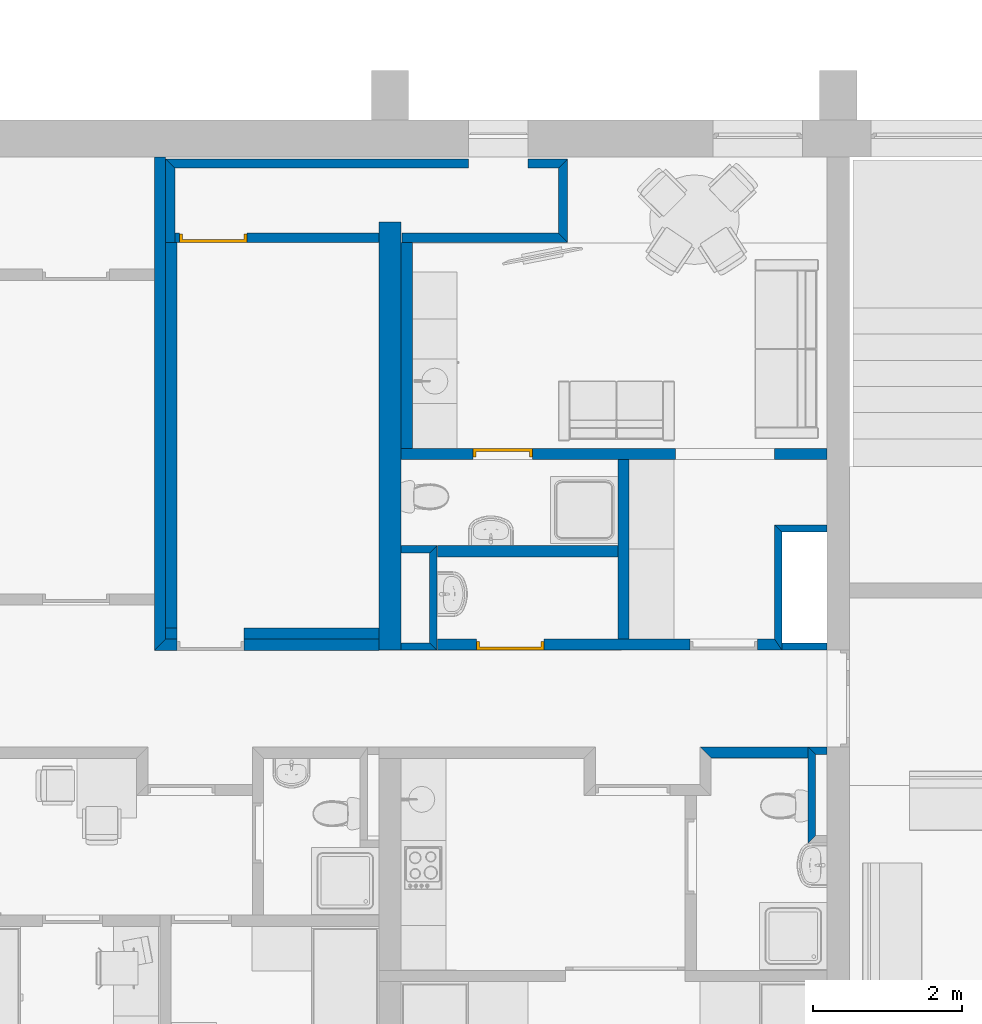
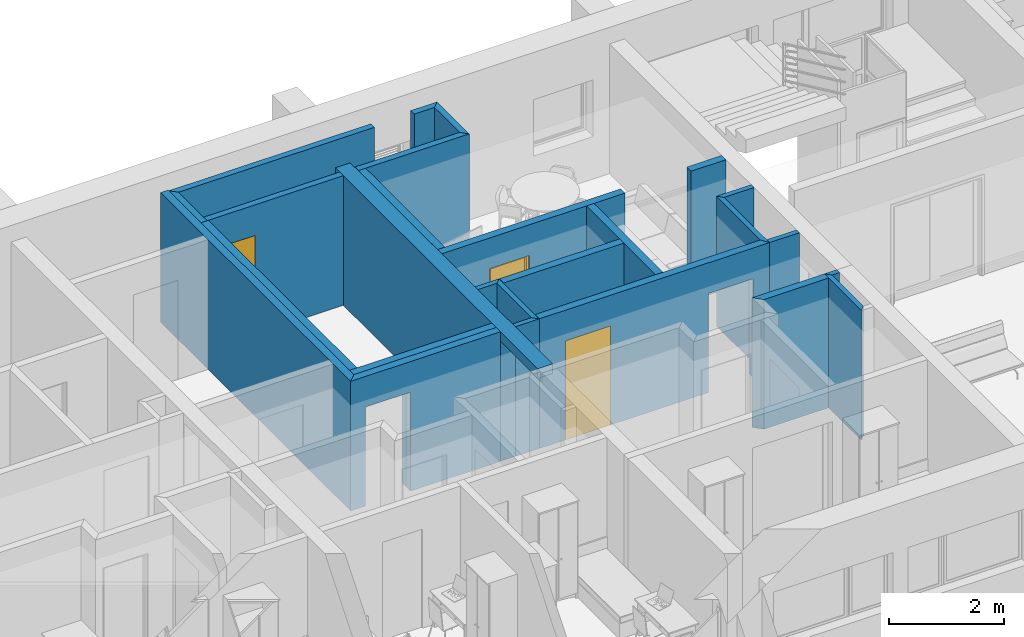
# One storey, part 12 of 172: 26 walls, 3 doors, 7 openings.
"""IFC2X3 building model written with IfcOpenShell, lengths in millimetres."""

from ifc_helpers import new_model, entity, si_unit, converted_unit, money_unit, direction, frame, origin_with_axes, place, context, subcontext, project, spatial, polyline, outline, extrude, faceted_brep, source, transform, mapped, material, material_list, layer, layer_set, layer_usage, type_object, element, fill, save


model = new_model("IFC2X3")

# Units and contexts
model_context = context("Model", 3, precision=1e-05, world=origin_with_axes(), true_north=direction((0.0, 1.0)))
body_context = subcontext(model_context, "Body", "Model", "MODEL_VIEW")
ifc_project = project(units=[si_unit("LENGTHUNIT", "METRE", prefix="MILLI"), si_unit("AREAUNIT", "SQUARE_METRE"), si_unit("VOLUMEUNIT", "CUBIC_METRE"), converted_unit("PLANEANGLEUNIT", "DEGREE", entity("IfcPlaneAngleMeasure", 0.0174532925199), si_unit("PLANEANGLEUNIT", "RADIAN"), dimensions=[0, 0, 0, 0, 0, 0, 0]), si_unit("SOLIDANGLEUNIT", "STERADIAN"), money_unit("USD"), converted_unit("TIMEUNIT", "Year", entity("IfcTimeMeasure", 31556926.0), si_unit("TIMEUNIT", "SECOND"), dimensions=[0, 0, 0, 0, 0, 0, 0]), si_unit("MASSUNIT", "GRAM"), si_unit("THERMODYNAMICTEMPERATUREUNIT", "DEGREE_CELSIUS"), si_unit("LUMINOUSINTENSITYUNIT", "LUMEN")], contexts=[model_context])

# Site, building, storey
site_placement = place(None, origin_with_axes())
site = spatial("IfcSite", under=ifc_project, at=site_placement, Name="Site", CompositionType="ELEMENT")
building_placement = place(site_placement, origin_with_axes())
building = spatial("IfcBuilding", under=site, at=building_placement, Name="Building", CompositionType="ELEMENT")
storey_placement = place(building_placement, frame((0.0, 0.0, 3200.0), z_axis=(0.0, 0.0, 1.0), x_axis=(1.0, 0.0, 0.0)))
storey = spatial("IfcBuildingStorey", under=building, at=storey_placement, Name="3KORRUS", CompositionType="ELEMENT", Elevation=3200.0)

# Wall, opening
ifc_material_1 = material(Name="UmbKipsplaat")
ifc_layer_1 = layer(ifc_material_1, 13.0, ventilated="UNKNOWN")
ifc_layer_2 = layer(ifc_material_1, 13.0, ventilated="UNKNOWN")
ifc_material_2 = material(Name="SOOJUSTUS MINERAALVILL")
ifc_layer_3 = layer(ifc_material_2, 98.0, ventilated="UNKNOWN")
ifc_layer_4 = layer(ifc_material_1, 13.0, ventilated="UNKNOWN")
ifc_layer_5 = layer(ifc_material_1, 13.0, ventilated="UNKNOWN")
ifc_layer_set_1 = layer_set([ifc_layer_1, ifc_layer_2, ifc_layer_3, ifc_layer_4, ifc_layer_5], Name="kipssein150")
ifc_layer_usage_1 = layer_usage(ifc_layer_set_1, "AXIS2", "POSITIVE", -150.0)
wall_type_1 = type_object("IfcWallType", Name="kipssein150 150", PredefinedType="NOTDEFINED")
wall_1_placement = place(storey_placement, frame((-18290.2967033, -11592.9769722, 0.0), z_axis=(0.0, 0.0, 1.0), x_axis=(-1.0, 0.0, 0.0)))
wall_1 = element("IfcWallStandardCase", 1, at=wall_1_placement, inside=storey, type_object=wall_type_1, material=ifc_layer_usage_1, Name="SS1", ObjectType="SS1", context=body_context, shape_type="SweptSolid", body=[
    extrude(outline(polyline([(0.0, -150.0), (2853.5030761, -150.0), (2853.5030761, 0.0), (0.0, 0.0), (0.0, -150.0)])), origin_with_axes(), (0.0, 0.0, 1.0), 2750.0),
])
opening_1_placement = place(wall_1_placement, frame((2253.5030761, 0.0, 0.0), z_axis=(0.0, 0.0, 1.0), x_axis=(1.0, 0.0, 0.0)))
element("IfcOpeningElement", 2, at=opening_1_placement, cuts=wall_1, Name="DOO - 001", context=body_context, shape_type="SweptSolid", body=[
    extrude(outline(polyline([(-450.0, 2100.0), (-450.0, 0.0), (450.0, 0.0), (450.0, 2100.0), (-450.0, 2100.0)])), frame((0.0, -150.0, 0.0), z_axis=(0.0, -1.0, 0.0), x_axis=(1.0, 0.0, 0.0)), (0.0, 0.0, 1.0), 150.0),
    extrude(outline(polyline([(-450.0, 0.0), (-450.0, -2100.0), (450.0, -2100.0), (450.0, 0.0), (-450.0, 0.0)])), frame((0.0, -150.0, 0.0), z_axis=(0.0, 1.0, 0.0), x_axis=(1.0, 0.0, 0.0)), (0.0, 0.0, 1.0), 150.0),
])

# Walls
ifc_layer_usage_2 = layer_usage(ifc_layer_set_1, "AXIS2", "POSITIVE", -150.0)
wall_2_placement = place(storey_placement, frame((-21293.7997794, -11742.9769722, 0.0), z_axis=(0.0, 0.0, 1.0), x_axis=(0.0, 1.0, 0.0)))
element("IfcWallStandardCase", 3, at=wall_2_placement, inside=storey, type_object=wall_type_1, material=ifc_layer_usage_2, Name="SS1", ObjectType="SS1", context=body_context, shape_type="SweptSolid", body=[
    extrude(outline(polyline([(150.0, -150.0), (6603.3728634, -150.0), (6603.3728634, 0.0), (0.0, 0.0), (150.0, -150.0)])), origin_with_axes(), (0.0, 0.0, 1.0), 2750.0),
])
ifc_layer_usage_3 = layer_usage(ifc_layer_set_1, "AXIS2", "POSITIVE", -150.0)
wall_3_placement = place(storey_placement, frame((-21143.7997794, -11592.9769722, 0.0), z_axis=(0.0, 0.0, 1.0), x_axis=(0.0, 1.0, 0.0)))
element("IfcWallStandardCase", 4, at=wall_3_placement, inside=storey, type_object=wall_type_1, material=ifc_layer_usage_3, Name="SS1", ObjectType="SS1", context=body_context, shape_type="SweptSolid", body=[
    extrude(outline(polyline([(150.0, -150.0), (5309.37286339, -150.0), (5309.37286339, 0.0), (150.0, 0.0), (150.0, -150.0)])), origin_with_axes(), (0.0, 0.0, 1.0), 2750.0),
])

# Wall, opening
ifc_layer_usage_4 = layer_usage(ifc_layer_set_1, "AXIS2", "POSITIVE", -150.0)
wall_4_placement = place(storey_placement, frame((-18290.2967033, -11742.9769722, 0.0), z_axis=(0.0, 0.0, 1.0), x_axis=(-1.0, 0.0, 0.0)))
wall_4 = element("IfcWallStandardCase", 5, at=wall_4_placement, inside=storey, type_object=wall_type_1, material=ifc_layer_usage_4, Name="SS1", ObjectType="SS1", context=body_context, shape_type="SweptSolid", body=[
    extrude(outline(polyline([(0.0, -150.0), (2853.5030761, -150.0), (3003.5030761, 0.0), (0.0, 0.0), (0.0, -150.0)])), origin_with_axes(), (0.0, 0.0, 1.0), 2750.0),
])
opening_2_placement = place(wall_4_placement, frame((2253.5030761, 0.0, 0.0), z_axis=(0.0, 0.0, 1.0), x_axis=(1.0, 0.0, 0.0)))
element("IfcOpeningElement", 6, at=opening_2_placement, cuts=wall_4, Name="SU2-1", context=body_context, shape_type="SweptSolid", body=[
    extrude(outline(polyline([(-450.0, -2100.0), (450.0, -2100.0), (450.0, 0.0), (-450.0, 0.0), (-450.0, -2100.0)])), frame((0.0, -150.0, 0.0), z_axis=(0.0, 1.0, 0.0), x_axis=(1.0, 0.0, 0.0)), (0.0, 0.0, 1.0), 450.0),
])

# Wall
ifc_layer_usage_5 = layer_usage(ifc_layer_set_1, "AXIS2", "POSITIVE", 0.0)
wall_5_placement = place(storey_placement, frame((-15090.4426429, -9189.57320461, 0.0), z_axis=(0.0, 0.0, 1.0), x_axis=(0.0, -1.0, 0.0)))
element("IfcWallStandardCase", 7, at=wall_5_placement, inside=storey, type_object=wall_type_1, material=ifc_layer_usage_5, Name="SS1", ObjectType="SS1", context=body_context, shape_type="SweptSolid", body=[
    extrude(outline(polyline([(0.0, 0.0), (2399.66669481, 0.0), (2399.66669481, 150.0), (0.0, 150.0), (0.0, 0.0)])), origin_with_axes(), (0.0, 0.0, 1.0), 2750.0),
])

# Wall, opening, door
ifc_layer_usage_6 = layer_usage(ifc_layer_set_1, "AXIS2", "POSITIVE", 0.0)
wall_6_placement = place(storey_placement, frame((-14316.1467126, -9039.57320461, 0.0), z_axis=(0.0, 0.0, 1.0), x_axis=(-1.0, 0.0, 0.0)))
wall_6 = element("IfcWallStandardCase", 8, at=wall_6_placement, inside=storey, type_object=wall_type_1, material=ifc_layer_usage_6, Name="SS1", ObjectType="SS1", context=body_context, shape_type="SweptSolid", body=[
    extrude(outline(polyline([(0.0, 0.0), (3674.1499907, 0.0), (3674.1499907, 150.0), (0.0, 150.0), (0.0, 0.0)])), origin_with_axes(), (0.0, 0.0, 1.0), 2750.0),
])
opening_3_placement = place(wall_6_placement, frame((2314.31480932, 0.0, 0.0), z_axis=(0.0, 0.0, 1.0), x_axis=(1.0, 0.0, 0.0)))
opening_3 = element("IfcOpeningElement", 9, at=opening_3_placement, cuts=wall_6, Name="SU3-3", context=body_context, shape_type="SweptSolid", body=[
    extrude(outline(polyline([(-400.0, -2100.0), (400.0, -2100.0), (400.0, 0.0), (-400.0, 0.0), (-400.0, -2100.0)])), frame((0.0, 150.0, 0.0), z_axis=(0.0, 1.0, 0.0), x_axis=(1.0, 0.0, 0.0)), (0.0, 0.0, -1.0), 450.0),
])
ifc_material_3 = material(Name="Background")
ifc_material_list = material_list([ifc_material_3])
door_style_1 = type_object("IfcDoorStyle", Name="Door 19", ConstructionType="NOTDEFINED", OperationType="SINGLE_SWING_LEFT", ParameterTakesPrecedence=False, Sizeable=False)
shared_shape_1 = source(origin_with_axes(), body_context, "Body", "Brep", [
    faceted_brep([(360.0, -40.0, 0.0), (360.0, -115.0, 0.0), (360.0, -115.0, 2060.0), (360.0, -40.0, 2060.0), (372.0, -40.0, 0.0), (372.0, 0.0, 0.0), (400.0, 0.0, 0.0), (400.0, -115.0, 0.0), (400.0, -115.0, 2060.0), (372.0, -40.0, 2060.0), (400.0, 0.0, 2060.0), (372.0, 0.0, 2060.0)], [[[0, 1, 2, 3]], [[4, 5, 6, 7, 1, 0]], [[2, 1, 7, 8]], [[9, 3, 2, 8, 10, 11]], [[9, 4, 0, 3]], [[11, 5, 4, 9]], [[11, 10, 6, 5]], [[7, 6, 10, 8]]]),
    faceted_brep([(-372.0, -40.0, 2060.0), (-372.0, 0.0, 2060.0), (-400.0, 0.0, 2060.0), (-400.0, -115.0, 2060.0), (-360.0, -115.0, 2060.0), (-360.0, -40.0, 2060.0), (-372.0, -40.0, 0.0), (-372.0, 0.0, 0.0), (-400.0, 0.0, 0.0), (-400.0, -115.0, 0.0), (-360.0, -115.0, 0.0), (-360.0, -40.0, 0.0)], [[[0, 1, 2, 3, 4, 5]], [[0, 6, 7, 1]], [[7, 8, 2, 1]], [[3, 2, 8, 9]], [[4, 3, 9, 10]], [[5, 4, 10, 11]], [[5, 11, 6, 0]], [[6, 11, 10, 9, 8, 7]]]),
    faceted_brep([(372.0, 0.0, 2072.0), (-372.0, 0.0, 2072.0), (-372.0, 0.0, 2060.0), (-400.0, 0.0, 2060.0), (-400.0, 0.0, 2100.0), (400.0, 0.0, 2100.0), (400.0, 0.0, 2060.0), (372.0, 0.0, 2060.0), (372.0, -40.0, 2072.0), (-372.0, -40.0, 2072.0), (-372.0, -40.0, 2060.0), (-360.0, -40.0, 2060.0), (-360.0, -115.0, 2060.0), (-400.0, -115.0, 2060.0), (-400.0, -115.0, 2100.0), (400.0, -115.0, 2100.0), (400.0, -115.0, 2060.0), (372.0, -40.0, 2060.0), (360.0, -115.0, 2060.0), (360.0, -40.0, 2060.0)], [[[0, 1, 2, 3, 4, 5, 6, 7]], [[0, 8, 9, 1]], [[1, 9, 10, 2]], [[10, 11, 12, 13, 3, 2]], [[14, 4, 3, 13]], [[15, 5, 4, 14]], [[16, 6, 5, 15]], [[17, 7, 6, 16, 18, 19]], [[7, 17, 8, 0]], [[10, 9, 8, 17, 19, 11]], [[19, 18, 12, 11]], [[13, 12, 18, 16, 15, 14]]]),
    faceted_brep([(-372.0, 0.0, 0.0), (372.0, 0.0, 0.0), (372.0, -40.0, 0.0), (-372.0, -40.0, 0.0), (-372.0, 0.0, 2072.0), (372.0, 0.0, 2072.0), (372.0, -40.0, 2072.0), (-372.0, -40.0, 2072.0)], [[[0, 1, 2, 3]], [[0, 4, 5, 1]], [[1, 5, 6, 2]], [[3, 2, 6, 7]], [[4, 0, 3, 7]], [[5, 4, 7, 6]]]),
])
door_1_placement = place(opening_3_placement, frame((400.0, 0.0, 0.0), z_axis=(0.0, 0.0, 1.0), x_axis=(-1.0, 0.0, 0.0)))
door_1 = element("IfcDoor", 10, at=door_1_placement, inside=storey, type_object=door_style_1, material=ifc_material_list, Name="SU3-3", ObjectType="WC-uks", OverallHeight=2100.0, OverallWidth=800.0, context=body_context, shape_type="MappedRepresentation", body=[
    mapped(shared_shape_1, transform((400.0, 0.0, 0.0))),
])
fill(opening_3, door_1)

# Wall, openings, door
ifc_layer_usage_7 = layer_usage(ifc_layer_set_1, "AXIS2", "POSITIVE", 0.0)
wall_7_placement = place(storey_placement, frame((-17503.5225768, -11742.1092262, 0.0), z_axis=(0.0, 0.0, 1.0), x_axis=(1.0, 0.0, 0.0)))
wall_7 = element("IfcWallStandardCase", 11, at=wall_7_placement, inside=storey, type_object=wall_type_1, material=ifc_layer_usage_7, Name="SS1", ObjectType="SS1", context=body_context, shape_type="SweptSolid", body=[
    extrude(outline(polyline([(0.0, 0.0), (4613.2258735, 0.0), (4513.2258735, 150.0), (0.0, 150.0), (0.0, 0.0)])), origin_with_axes(), (0.0, 0.0, 1.0), 2750.0),
])
opening_4_placement = place(wall_7_placement, frame((3832.55628862, 0.0, 0.0), z_axis=(0.0, 0.0, 1.0), x_axis=(1.0, 0.0, 0.0)))
element("IfcOpeningElement", 12, at=opening_4_placement, cuts=wall_7, Name="SU2-5", context=body_context, shape_type="SweptSolid", body=[
    extrude(outline(polyline([(-450.0, -2100.0), (450.0, -2100.0), (450.0, 0.0), (-450.0, 0.0), (-450.0, -2100.0)])), frame((0.0, 150.0, 0.0), z_axis=(0.0, -1.0, 0.0), x_axis=(-1.0, 0.0, 0.0)), (0.0, 0.0, 1.0), 450.0),
])
opening_5_placement = place(wall_7_placement, frame((973.225873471, 0.0, 0.0), z_axis=(0.0, 0.0, 1.0), x_axis=(1.0, 0.0, 0.0)))
opening_5 = element("IfcOpeningElement", 13, at=opening_5_placement, cuts=wall_7, Name="SU2-4", context=body_context, shape_type="SweptSolid", body=[
    extrude(outline(polyline([(-450.0, -2100.0), (450.0, -2100.0), (450.0, 0.0), (-450.0, 0.0), (-450.0, -2100.0)])), frame((0.0, 150.0, 0.0), z_axis=(0.0, 1.0, 0.0), x_axis=(1.0, 0.0, 0.0)), (0.0, 0.0, -1.0), 450.0),
])
shared_shape_2 = source(origin_with_axes(), body_context, "Body", "Brep", [
    faceted_brep([(410.0, -40.0, 0.0), (410.0, -115.0, 0.0), (410.0, -115.0, 2060.0), (410.0, -40.0, 2060.0), (422.0, -40.0, 0.0), (422.0, 0.0, 0.0), (450.0, 0.0, 0.0), (450.0, -115.0, 0.0), (450.0, -115.0, 2060.0), (422.0, -40.0, 2060.0), (450.0, 0.0, 2060.0), (422.0, 0.0, 2060.0)], [[[0, 1, 2, 3]], [[4, 5, 6, 7, 1, 0]], [[2, 1, 7, 8]], [[9, 3, 2, 8, 10, 11]], [[9, 4, 0, 3]], [[11, 5, 4, 9]], [[11, 10, 6, 5]], [[7, 6, 10, 8]]]),
    faceted_brep([(-422.0, -40.0, 2060.0), (-422.0, 0.0, 2060.0), (-450.0, 0.0, 2060.0), (-450.0, -115.0, 2060.0), (-410.0, -115.0, 2060.0), (-410.0, -40.0, 2060.0), (-422.0, -40.0, 0.0), (-422.0, 0.0, 0.0), (-450.0, 0.0, 0.0), (-450.0, -115.0, 0.0), (-410.0, -115.0, 0.0), (-410.0, -40.0, 0.0)], [[[0, 1, 2, 3, 4, 5]], [[0, 6, 7, 1]], [[7, 8, 2, 1]], [[3, 2, 8, 9]], [[4, 3, 9, 10]], [[5, 4, 10, 11]], [[5, 11, 6, 0]], [[6, 11, 10, 9, 8, 7]]]),
    faceted_brep([(422.0, 0.0, 2072.0), (-422.0, 0.0, 2072.0), (-422.0, 0.0, 2060.0), (-450.0, 0.0, 2060.0), (-450.0, 0.0, 2100.0), (450.0, 0.0, 2100.0), (450.0, 0.0, 2060.0), (422.0, 0.0, 2060.0), (422.0, -40.0, 2072.0), (-422.0, -40.0, 2072.0), (-422.0, -40.0, 2060.0), (-410.0, -40.0, 2060.0), (-410.0, -115.0, 2060.0), (-450.0, -115.0, 2060.0), (-450.0, -115.0, 2100.0), (450.0, -115.0, 2100.0), (450.0, -115.0, 2060.0), (422.0, -40.0, 2060.0), (410.0, -115.0, 2060.0), (410.0, -40.0, 2060.0)], [[[0, 1, 2, 3, 4, 5, 6, 7]], [[0, 8, 9, 1]], [[1, 9, 10, 2]], [[10, 11, 12, 13, 3, 2]], [[14, 4, 3, 13]], [[15, 5, 4, 14]], [[16, 6, 5, 15]], [[17, 7, 6, 16, 18, 19]], [[7, 17, 8, 0]], [[10, 9, 8, 17, 19, 11]], [[19, 18, 12, 11]], [[13, 12, 18, 16, 15, 14]]]),
    faceted_brep([(-422.0, 0.0, 0.0), (422.0, 0.0, 0.0), (422.0, -40.0, 0.0), (-422.0, -40.0, 0.0), (-422.0, 0.0, 2072.0), (422.0, 0.0, 2072.0), (422.0, -40.0, 2072.0), (-422.0, -40.0, 2072.0)], [[[0, 1, 2, 3]], [[0, 4, 5, 1]], [[1, 5, 6, 2]], [[3, 2, 6, 7]], [[4, 0, 3, 7]], [[5, 4, 7, 6]]]),
])
door_2_placement = place(opening_5_placement, frame((450.0, 0.0, 0.0), z_axis=(0.0, 0.0, 1.0), x_axis=(-1.0, 0.0, 0.0)))
door_2 = element("IfcDoor", 14, at=door_2_placement, inside=storey, type_object=door_style_1, material=ifc_material_list, Name="SU2-4", ObjectType="Abiruumi uks", OverallHeight=2100.0, OverallWidth=900.0, context=body_context, shape_type="MappedRepresentation", body=[
    mapped(shared_shape_2, transform((450.0, 0.0, 0.0))),
])
fill(opening_5, door_2)

# Walls
ifc_layer_usage_8 = layer_usage(ifc_layer_set_1, "AXIS2", "POSITIVE", 0.0)
wall_8_placement = place(storey_placement, frame((-17503.5225768, -10492.2398994, 0.0), z_axis=(0.0, 0.0, 1.0), x_axis=(1.0, 0.0, 0.0)))
element("IfcWallStandardCase", 15, at=wall_8_placement, inside=storey, type_object=wall_type_1, material=ifc_layer_usage_8, Name="SS1", ObjectType="SS1", context=body_context, shape_type="SweptSolid", body=[
    extrude(outline(polyline([(0.0, 0.0), (2563.0799339, 0.0), (2563.0799339, 150.0), (0.0, 150.0), (0.0, 0.0)])), origin_with_axes(), (0.0, 0.0, 1.0), 2750.0),
])
ifc_layer_usage_9 = layer_usage(ifc_layer_set_1, "AXIS2", "POSITIVE", 0.0)
wall_9_placement = place(storey_placement, frame((-11990.2967033, -9039.57320461, 0.0), z_axis=(0.0, 0.0, 1.0), x_axis=(-1.0, 0.0, 0.0)))
element("IfcWallStandardCase", 16, at=wall_9_placement, inside=storey, type_object=wall_type_1, material=ifc_layer_usage_9, Name="SS1", ObjectType="SS1", context=body_context, shape_type="SweptSolid", body=[
    extrude(outline(polyline([(300.0, 0.0), (1000.0, 0.0), (1000.0, 150.0), (300.0, 150.0), (300.0, 0.0)])), origin_with_axes(), (0.0, 0.0, 1.0), 2750.0),
])
ifc_layer_usage_10 = layer_usage(ifc_layer_set_1, "AXIS2", "POSITIVE", 0.0)
wall_10_placement = place(storey_placement, frame((-12540.2967033, -13036.3705726, 0.0), z_axis=(0.0, 0.0, 1.0), x_axis=(-1.0, 0.0, 0.0)))
element("IfcWallStandardCase", 17, at=wall_10_placement, inside=storey, type_object=wall_type_1, material=ifc_layer_usage_10, Name="SS1", ObjectType="SS1", context=body_context, shape_type="SweptSolid", body=[
    extrude(outline(polyline([(0.0, 0.0), (1450.1933811, 0.0), (1300.1933811, 150.0), (0.0, 150.0), (0.0, 0.0)])), origin_with_axes(), (0.0, 0.0, 1.0), 2750.0),
])
ifc_layer_usage_11 = layer_usage(ifc_layer_set_1, "AXIS2", "POSITIVE", 0.0)
wall_11_placement = place(storey_placement, frame((-17990.2967033, -6283.6041088, 0.0), z_axis=(0.0, 0.0, 1.0), x_axis=(0.0, -1.0, 0.0)))
element("IfcWallStandardCase", 18, at=wall_11_placement, inside=storey, type_object=wall_type_1, material=ifc_layer_usage_11, Name="SS1", ObjectType="SS1", context=body_context, shape_type="SweptSolid", body=[
    extrude(outline(polyline([(0.0, 0.0), (2755.96909581, 0.0), (2755.96909581, 150.0), (0.0, 150.0), (0.0, 0.0)])), origin_with_axes(), (0.0, 0.0, 1.0), 2750.0),
])

# Wall, opening
ifc_material_4 = material(Name="Olemasolevad seinad tellis, uus viimistlus")
ifc_layer_6 = layer(ifc_material_4, 300.0, ventilated="UNKNOWN")
ifc_layer_set_2 = layer_set([ifc_layer_6], Name="Olemasolevad seinad tellis, uus viimistlus  300")
ifc_layer_usage_12 = layer_usage(ifc_layer_set_2, "AXIS2", "POSITIVE", 0.0)
wall_type_2 = type_object("IfcWallType", Name="Olemasolevad seinad tellis, uus viimistlus  300", PredefinedType="NOTDEFINED")
wall_12_placement = place(storey_placement, frame((-17990.2967033, -13039.2398994, 0.0), z_axis=(0.0, 0.0, 1.0), x_axis=(0.0, 1.0, 0.0)))
wall_12 = element("IfcWallStandardCase", 19, at=wall_12_placement, inside=storey, type_object=wall_type_2, material=ifc_layer_usage_12, Name="KS1", ObjectType="KS1", context=body_context, shape_type="SweptSolid", body=[
    extrude(outline(polyline([(0.0, 0.0), (7029.63579061, 0.0), (7029.63579061, 300.0), (0.0, 300.0), (0.0, 0.0)])), origin_with_axes(), (0.0, 0.0, 1.0), 2750.0),
])
opening_6_placement = place(wall_12_placement, frame((650.0, 0.0, 0.0), z_axis=(0.0, 0.0, 1.0), x_axis=(1.0, 0.0, 0.0)))
element("IfcOpeningElement", 20, at=opening_6_placement, cuts=wall_12, Name="DOO - 001", context=body_context, shape_type="SweptSolid", body=[
    extrude(outline(polyline([(-650.0, 2550.0), (-650.0, 0.0), (650.0, 0.0), (650.0, 2550.0), (-650.0, 2550.0)])), frame((0.0, 0.0, 0.0), z_axis=(0.0, -1.0, 0.0), x_axis=(1.0, 0.0, 0.0)), (0.0, 0.0, 1.0), 300.0),
    extrude(outline(polyline([(-650.0, 0.0), (-650.0, -2550.0), (650.0, -2550.0), (650.0, 0.0), (-650.0, 0.0)])), frame((0.0, 0.0, 0.0), z_axis=(0.0, 1.0, 0.0), x_axis=(1.0, 0.0, 0.0)), (0.0, 0.0, 1.0), 300.0),
])

# Walls
ifc_material_5 = material(Name="krohv")
ifc_layer_7 = layer(ifc_material_5, 2.0, ventilated="UNKNOWN")
ifc_layer_8 = layer(ifc_material_5, 10.0, ventilated="UNKNOWN")
ifc_material_6 = material(Name="Kergplokk")
ifc_layer_9 = layer(ifc_material_6, 76.0, ventilated="UNKNOWN")
ifc_layer_10 = layer(ifc_material_5, 10.0, ventilated="UNKNOWN")
ifc_layer_11 = layer(ifc_material_5, 2.0, ventilated="UNKNOWN")
ifc_layer_set_3 = layer_set([ifc_layer_7, ifc_layer_8, ifc_layer_9, ifc_layer_10, ifc_layer_11], Name="Kergplokk Bauroc 100")
ifc_layer_usage_13 = layer_usage(ifc_layer_set_3, "AXIS2", "POSITIVE", -100.0)
wall_type_3 = type_object("IfcWallType", Name="Kergplokk Bauroc 100 100", PredefinedType="NOTDEFINED")
wall_13_placement = place(storey_placement, frame((-17990.2967033, -10342.2398994, 0.0), z_axis=(0.0, 0.0, 1.0), x_axis=(1.0, 0.0, 0.0)))
element("IfcWallStandardCase", 21, at=wall_13_placement, inside=storey, type_object=wall_type_3, material=ifc_layer_usage_13, Name="SS2", ObjectType="SS2", context=body_context, shape_type="SweptSolid", body=[
    extrude(outline(polyline([(0.0, -100.0), (379.7741265, -100.0), (479.7741265, 0.0), (0.0, 0.0), (0.0, -100.0)])), origin_with_axes(), (0.0, 0.0, 1.0), 2750.0),
])
ifc_layer_usage_14 = layer_usage(ifc_layer_set_3, "AXIS2", "POSITIVE", -100.0)
wall_14_placement = place(storey_placement, frame((-11990.2967033, -13136.3705726, 0.0), z_axis=(0.0, 0.0, 1.0), x_axis=(-1.0, 0.0, 0.0)))
element("IfcWallStandardCase", 22, at=wall_14_placement, inside=storey, type_object=wall_type_3, material=ifc_layer_usage_14, Name="SS2", ObjectType="SS2", context=body_context, shape_type="SweptSolid", body=[
    extrude(outline(polyline([(300.0, -100.0), (550.0, -100.0), (450.0, 0.0), (300.0, 0.0), (300.0, -100.0)])), origin_with_axes(), (0.0, 0.0, 1.0), 2750.0),
])
ifc_layer_usage_15 = layer_usage(ifc_layer_set_3, "AXIS2", "POSITIVE", 0.0)
wall_15_placement = place(storey_placement, frame((-12890.2967033, -11742.1092262, 0.0), z_axis=(0.0, 0.0, 1.0), x_axis=(0.0, 1.0, 0.0)))
element("IfcWallStandardCase", 23, at=wall_15_placement, inside=storey, type_object=wall_type_3, material=ifc_layer_usage_15, Name="SS2", ObjectType="SS2", context=body_context, shape_type="SweptSolid", body=[
    extrude(outline(polyline([(0.0, 0.0), (1579.8693268, 0.0), (1679.8693268, 100.0), (150.0, 100.0), (0.0, 0.0)])), origin_with_axes(), (0.0, 0.0, 1.0), 2750.0),
])
ifc_layer_usage_16 = layer_usage(ifc_layer_set_3, "AXIS2", "POSITIVE", 0.0)
wall_16_placement = place(storey_placement, frame((-17510.5225768, -11742.1092262, 0.0), z_axis=(0.0, 0.0, 1.0), x_axis=(0.0, 1.0, 0.0)))
element("IfcWallStandardCase", 24, at=wall_16_placement, inside=storey, type_object=wall_type_3, material=ifc_layer_usage_16, Name="SS2", ObjectType="SS2", context=body_context, shape_type="SweptSolid", body=[
    extrude(outline(polyline([(0.0, 0.0), (1399.8693268, 0.0), (1299.8693268, 100.0), (100.0, 100.0), (0.0, 0.0)])), origin_with_axes(), (0.0, 0.0, 1.0), 2750.0),
])
ifc_layer_usage_17 = layer_usage(ifc_layer_set_3, "AXIS2", "POSITIVE", 0.0)
wall_17_placement = place(storey_placement, frame((-17990.2967033, -11742.1092262, 0.0), z_axis=(0.0, 0.0, 1.0), x_axis=(1.0, 0.0, 0.0)))
element("IfcWallStandardCase", 25, at=wall_17_placement, inside=storey, type_object=wall_type_3, material=ifc_layer_usage_17, Name="SS2", ObjectType="SS2", context=body_context, shape_type="SweptSolid", body=[
    extrude(outline(polyline([(0.0, 0.0), (479.7741265, 0.0), (379.7741265, 100.0), (0.0, 100.0), (0.0, 0.0)])), origin_with_axes(), (0.0, 0.0, 1.0), 2750.0),
])
ifc_layer_usage_18 = layer_usage(ifc_layer_set_3, "AXIS2", "POSITIVE", -100.0)
wall_18_placement = place(storey_placement, frame((-11990.2967033, -11742.1092262, 0.0), z_axis=(0.0, 0.0, 1.0), x_axis=(-1.0, 0.0, 0.0)))
element("IfcWallStandardCase", 26, at=wall_18_placement, inside=storey, type_object=wall_type_3, material=ifc_layer_usage_18, Name="SS2", ObjectType="SS2", context=body_context, shape_type="SweptSolid", body=[
    extrude(outline(polyline([(300.0, -100.0), (900.0, -100.0), (900.0, 0.0), (300.0, 0.0), (300.0, -100.0)])), origin_with_axes(), (0.0, 0.0, 1.0), 2750.0),
])
ifc_layer_usage_19 = layer_usage(ifc_layer_set_3, "AXIS2", "POSITIVE", 0.0)
wall_19_placement = place(storey_placement, frame((-11990.2967033, -10062.2398994, 0.0), z_axis=(0.0, 0.0, 1.0), x_axis=(-1.0, 0.0, 0.0)))
element("IfcWallStandardCase", 27, at=wall_19_placement, inside=storey, type_object=wall_type_3, material=ifc_layer_usage_19, Name="SS2", ObjectType="SS2", context=body_context, shape_type="SweptSolid", body=[
    extrude(outline(polyline([(300.0, 0.0), (1000.0, 0.0), (900.0, 100.0), (300.0, 100.0), (300.0, 0.0)])), origin_with_axes(), (0.0, 0.0, 1.0), 2750.0),
])
ifc_layer_usage_20 = layer_usage(ifc_layer_set_3, "AXIS2", "POSITIVE", -100.0)
wall_20_placement = place(storey_placement, frame((-12440.2967033, -13136.3705726, 0.0), z_axis=(0.0, 0.0, 1.0), x_axis=(0.0, -1.0, 0.0)))
element("IfcWallStandardCase", 28, at=wall_20_placement, inside=storey, type_object=wall_type_3, material=ifc_layer_usage_20, Name="SS2", ObjectType="SS2", context=body_context, shape_type="SweptSolid", body=[
    extrude(outline(polyline([(-100.0, -100.0), (1185.0388266, -100.0), (1085.0388266, 0.0), (0.0, 0.0), (-100.0, -100.0)])), origin_with_axes(), (0.0, 0.0, 1.0), 2750.0),
])
ifc_material_7 = material(Name="Teras")
ifc_layer_12 = layer(ifc_material_7, 12.5, ventilated="UNKNOWN")
ifc_material_8 = material(Name="Kõva mineraalvill")
ifc_layer_13 = layer(ifc_material_8, 100.0, ventilated="UNKNOWN")
ifc_layer_14 = layer(ifc_material_7, 12.5, ventilated="UNKNOWN")
ifc_layer_set_4 = layer_set([ifc_layer_12, ifc_layer_13, ifc_layer_14], Name="Plekkkattega soojustatud paneel")
ifc_layer_usage_21 = layer_usage(ifc_layer_set_4, "AXIS2", "POSITIVE", 0.0)
wall_type_4 = type_object("IfcWallType", Name="Plekkkattega soojustatud paneel 125", PredefinedType="NOTDEFINED")
wall_21_placement = place(storey_placement, frame((-15886.2764004, -5288.00709738, 0.0), z_axis=(0.0, 0.0, 1.0), x_axis=(0.0, -1.0, 0.0)))
element("IfcWallStandardCase", 29, at=wall_21_placement, inside=storey, type_object=wall_type_4, material=ifc_layer_usage_21, Name="SS3", ObjectType="SS3", context=body_context, shape_type="SweptSolid", body=[
    extrude(outline(polyline([(0.0, 0.0), (870.59701142, 0.0), (995.59701142, 125.0), (-125.0, 125.0), (0.0, 0.0)])), origin_with_axes(), (0.0, 0.0, 1.0), 2750.0),
])
ifc_layer_usage_22 = layer_usage(ifc_layer_set_4, "AXIS2", "POSITIVE", 0.0)
wall_22_placement = place(storey_placement, frame((-17977.2967033, -6283.6041088, 0.0), z_axis=(0.0, 0.0, 1.0), x_axis=(1.0, 0.0, 0.0)))
element("IfcWallStandardCase", 30, at=wall_22_placement, inside=storey, type_object=wall_type_4, material=ifc_layer_usage_22, Name="SS3", ObjectType="SS3", context=body_context, shape_type="SweptSolid", body=[
    extrude(outline(polyline([(0.0, 0.0), (2216.0203029, 0.0), (2091.0203029, 125.0), (0.0, 125.0), (0.0, 0.0)])), origin_with_axes(), (0.0, 0.0, 1.0), 2750.0),
])
ifc_layer_usage_23 = layer_usage(ifc_layer_set_4, "AXIS2", "POSITIVE", -125.0)
wall_23_placement = place(storey_placement, frame((-21143.7997794, -6283.6041088, 0.0), z_axis=(0.0, 0.0, 1.0), x_axis=(0.0, 1.0, 0.0)))
element("IfcWallStandardCase", 31, at=wall_23_placement, inside=storey, type_object=wall_type_4, material=ifc_layer_usage_23, Name="SS3", ObjectType="SS3", context=body_context, shape_type="SweptSolid", body=[
    extrude(outline(polyline([(0.0, -125.0), (995.59701142, -125.0), (1120.59701142, 0.0), (0.0, 0.0), (0.0, -125.0)])), origin_with_axes(), (0.0, 0.0, 1.0), 2750.0),
])

# Wall, opening, door
ifc_layer_usage_24 = layer_usage(ifc_layer_set_4, "AXIS2", "POSITIVE", 0.0)
wall_24_placement = place(storey_placement, frame((-21143.7997794, -6283.6041088, 0.0), z_axis=(0.0, 0.0, 1.0), x_axis=(1.0, 0.0, 0.0)))
wall_24 = element("IfcWallStandardCase", 32, at=wall_24_placement, inside=storey, type_object=wall_type_4, material=ifc_layer_usage_24, Name="SS3", ObjectType="SS3", context=body_context, shape_type="SweptSolid", body=[
    extrude(outline(polyline([(125.0, 0.0), (2853.5030761, 0.0), (2853.5030761, 125.0), (125.0, 125.0), (125.0, 0.0)])), origin_with_axes(), (0.0, 0.0, 1.0), 2750.0),
])
opening_7_placement = place(wall_24_placement, frame((636.501272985, 0.0, 0.0), z_axis=(0.0, 0.0, 1.0), x_axis=(1.0, 0.0, 0.0)))
opening_7 = element("IfcOpeningElement", 33, at=opening_7_placement, cuts=wall_24, Name="SU2-2", context=body_context, shape_type="SweptSolid", body=[
    extrude(outline(polyline([(-450.0, -2100.0), (450.0, -2100.0), (450.0, 0.0), (-450.0, 0.0), (-450.0, -2100.0)])), frame((0.0, 125.0, 0.0), z_axis=(0.0, -1.0, 0.0), x_axis=(-1.0, 0.0, 0.0)), (0.0, 0.0, 1.0), 375.0),
])
door_style_2 = type_object("IfcDoorStyle", Name="Door 19", ConstructionType="NOTDEFINED", OperationType="SINGLE_SWING_RIGHT", ParameterTakesPrecedence=False, Sizeable=False)
shared_shape_3 = source(origin_with_axes(), body_context, "Body", "Brep", [
    faceted_brep([(-410.0, -40.0, 0.0), (-410.0, -40.0, 2060.0), (-410.0, -115.0, 2060.0), (-410.0, -115.0, 0.0), (-422.0, -40.0, 2060.0), (-422.0, -40.0, 0.0), (-422.0, 0.0, 2060.0), (-450.0, 0.0, 2060.0), (-450.0, -115.0, 2060.0), (-450.0, -115.0, 0.0), (-450.0, 0.0, 0.0), (-422.0, 0.0, 0.0)], [[[0, 1, 2, 3]], [[4, 1, 0, 5]], [[4, 6, 7, 8, 2, 1]], [[2, 8, 9, 3]], [[5, 0, 3, 9, 10, 11]], [[6, 4, 5, 11]], [[6, 11, 10, 7]], [[9, 8, 7, 10]]]),
    faceted_brep([(422.0, -40.0, 2060.0), (410.0, -40.0, 2060.0), (410.0, -115.0, 2060.0), (450.0, -115.0, 2060.0), (450.0, 0.0, 2060.0), (422.0, 0.0, 2060.0), (422.0, -40.0, 0.0), (410.0, -40.0, 0.0), (410.0, -115.0, 0.0), (450.0, -115.0, 0.0), (450.0, 0.0, 0.0), (422.0, 0.0, 0.0)], [[[0, 1, 2, 3, 4, 5]], [[1, 0, 6, 7]], [[1, 7, 8, 2]], [[2, 8, 9, 3]], [[3, 9, 10, 4]], [[11, 5, 4, 10]], [[0, 5, 11, 6]], [[6, 11, 10, 9, 8, 7]]]),
    faceted_brep([(-422.0, 0.0, 2072.0), (-422.0, 0.0, 2060.0), (-450.0, 0.0, 2060.0), (-450.0, 0.0, 2100.0), (450.0, 0.0, 2100.0), (450.0, 0.0, 2060.0), (422.0, 0.0, 2060.0), (422.0, 0.0, 2072.0), (-422.0, -40.0, 2072.0), (-422.0, -40.0, 2060.0), (-410.0, -40.0, 2060.0), (-410.0, -115.0, 2060.0), (-450.0, -115.0, 2060.0), (-450.0, -115.0, 2100.0), (450.0, -115.0, 2100.0), (450.0, -115.0, 2060.0), (422.0, -40.0, 2060.0), (410.0, -115.0, 2060.0), (410.0, -40.0, 2060.0), (422.0, -40.0, 2072.0)], [[[0, 1, 2, 3, 4, 5, 6, 7]], [[1, 0, 8, 9]], [[9, 10, 11, 12, 2, 1]], [[12, 13, 3, 2]], [[13, 14, 4, 3]], [[14, 15, 5, 4]], [[16, 6, 5, 15, 17, 18]], [[7, 6, 16, 19]], [[0, 7, 19, 8]], [[16, 18, 10, 9, 8, 19]], [[10, 18, 17, 11]], [[15, 14, 13, 12, 11, 17]]]),
    faceted_brep([(422.0, 0.0, 0.0), (422.0, -40.0, 0.0), (-422.0, -40.0, 0.0), (-422.0, 0.0, 0.0), (422.0, 0.0, 2072.0), (422.0, -40.0, 2072.0), (-422.0, -40.0, 2072.0), (-422.0, 0.0, 2072.0)], [[[0, 1, 2, 3]], [[4, 5, 1, 0]], [[1, 5, 6, 2]], [[3, 2, 6, 7]], [[0, 3, 7, 4]], [[7, 6, 5, 4]]]),
])
door_3_placement = place(opening_7_placement, frame((450.0, 0.0, 0.0), z_axis=(0.0, 0.0, 1.0), x_axis=(-1.0, 0.0, 0.0)))
door_3 = element("IfcDoor", 34, at=door_3_placement, inside=storey, type_object=door_style_2, material=ifc_material_list, Name="SU2-2", ObjectType="Abiruumi uks", OverallHeight=2100.0, OverallWidth=900.0, context=body_context, shape_type="MappedRepresentation", body=[
    mapped(shared_shape_3, transform((450.0, 0.0, 0.0))),
])
fill(opening_7, door_3)

# Walls
ifc_layer_usage_25 = layer_usage(ifc_layer_set_4, "AXIS2", "POSITIVE", 0.0)
wall_25_placement = place(storey_placement, frame((-16290.2967033, -5288.00709738, 0.0), z_axis=(0.0, 0.0, 1.0), x_axis=(1.0, 0.0, 0.0)))
element("IfcWallStandardCase", 35, at=wall_25_placement, inside=storey, type_object=wall_type_4, material=ifc_layer_usage_25, Name="SS3", ObjectType="SS3", context=body_context, shape_type="SweptSolid", body=[
    extrude(outline(polyline([(0.0, 0.0), (404.0203029, 0.0), (529.0203029, 125.0), (0.0, 125.0), (0.0, 0.0)])), origin_with_axes(), (0.0, 0.0, 1.0), 2750.0),
])
ifc_layer_usage_26 = layer_usage(ifc_layer_set_4, "AXIS2", "POSITIVE", 0.0)
wall_26_placement = place(storey_placement, frame((-21143.7997794, -5288.00709738, 0.0), z_axis=(0.0, 0.0, 1.0), x_axis=(1.0, 0.0, 0.0)))
element("IfcWallStandardCase", 36, at=wall_26_placement, inside=storey, type_object=wall_type_4, material=ifc_layer_usage_26, Name="SS3", ObjectType="SS3", context=body_context, shape_type="SweptSolid", body=[
    extrude(outline(polyline([(125.0, 0.0), (4053.5030761, 0.0), (4053.5030761, 125.0), (0.0, 125.0), (125.0, 0.0)])), origin_with_axes(), (0.0, 0.0, 1.0), 2750.0),
])

save(model, "model.ifc")
